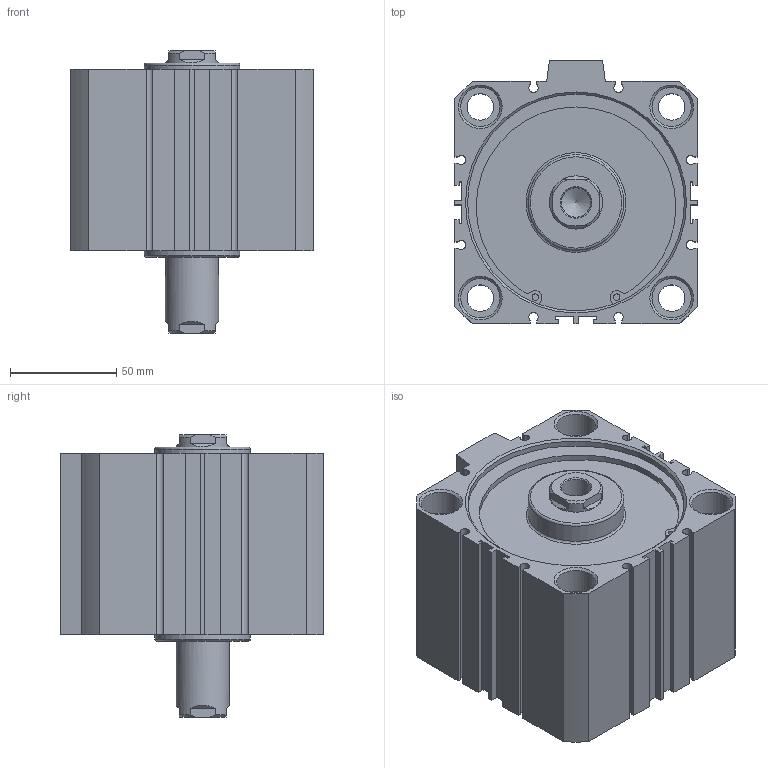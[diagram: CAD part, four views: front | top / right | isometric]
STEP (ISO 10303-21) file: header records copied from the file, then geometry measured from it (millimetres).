
FILE_DESCRIPTION((''),'2;1');
FILE_NAME('I:\3D電子目錄\氣缸\JDD\JDD-S\JDD100-S\JDD100x30-S.stp','2007-02-09T09:17:09',('662F206'),(''),'Autodesk Inventor 10','Autodesk Inventor 10','');
FILE_SCHEMA(('AUTOMOTIVE_DESIGN { 1 0 10303 214 1 1 1 1 }'));
Length unit declared in the file: millimetre
Products named in the file (3): JDD100-S; R 形環 100
Assembly tree (3 placements, depth 2):
  JDD100-S
    JDD100-S
    R 形環 100  x2
Bounding box: 114 x 124 x 132.7 mm (x, y, z)
Volume: 957856.1 mm3; surface area: 117388.5 mm2
Topology: 3 solids, 3 shells, 200 faces, 502 edges, 330 vertices
Faces by surface type: plane 116, cylinder 52, cone 24, bspline 6, torus 2
Full cylindrical faces by diameter (mm): 3.1 x4, 3.5 x2, 12.5 x4, 18.5 x8, 25 x2, 45 x2, 102 x4, 106 x2
Entity records: 5511 total; most frequent: CARTESIAN_POINT 1094, DIRECTION 908, ORIENTED_EDGE 824, EDGE_CURVE 412, AXIS2_PLACEMENT_3D 324, VERTEX_POINT 300, EDGE_LOOP 272, VECTOR 260
